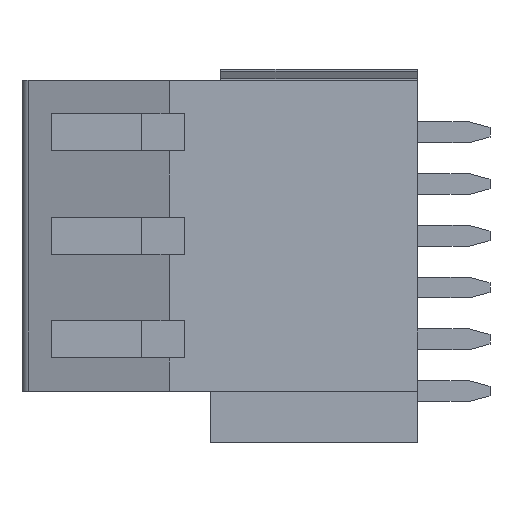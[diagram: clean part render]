
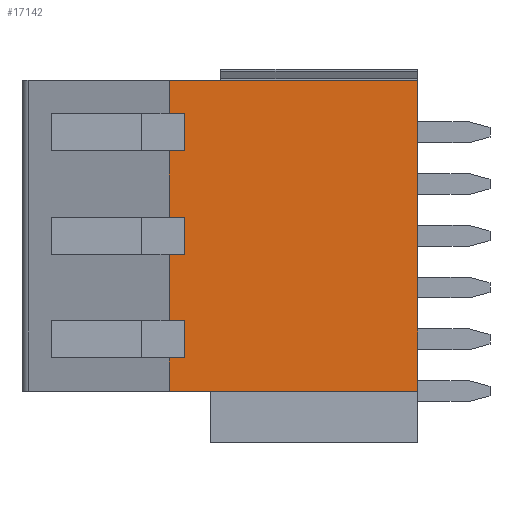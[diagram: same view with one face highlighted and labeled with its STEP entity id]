
A CAD part, left-side view. The second image highlights one B-rep face of the part: STEP entity #17142.
In plain terms, the highlighted planar face has unit normal (-1, 0, 0).
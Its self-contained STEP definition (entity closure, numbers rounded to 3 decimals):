
#9=DIRECTION('',(0.,1.,0.));
#10=VECTOR('',#9,12.);
#11=CARTESIAN_POINT('',(0.,0.,-0.55));
#12=LINE('',#11,#10);
#2987=DIRECTION('',(0.,0.,-1.));
#2988=VECTOR('',#2987,3.2);
#2989=CARTESIAN_POINT('',(0.,12.,-8.95));
#2990=LINE('',#2989,#2988);
#2995=DIRECTION('',(0.,0.,-1.));
#2996=VECTOR('',#2995,1.6);
#2997=CARTESIAN_POINT('',(0.,12.,-13.95));
#2998=LINE('',#2997,#2996);
#2999=DIRECTION('',(0.,0.,-1.));
#3000=VECTOR('',#2999,1.6);
#3001=CARTESIAN_POINT('',(0.,12.,-0.55));
#3002=LINE('',#3001,#3000);
#3007=DIRECTION('',(0.,0.,-1.));
#3008=VECTOR('',#3007,3.2);
#3009=CARTESIAN_POINT('',(0.,12.,-3.95));
#3010=LINE('',#3009,#3008);
#3015=DIRECTION('',(0.,0.,-1.));
#3016=VECTOR('',#3015,15.);
#3017=CARTESIAN_POINT('',(0.,0.,-0.55));
#3018=LINE('',#3017,#3016);
#3019=DIRECTION('',(0.,1.,0.));
#3020=VECTOR('',#3019,12.);
#3021=CARTESIAN_POINT('',(0.,0.,-15.55));
#3022=LINE('',#3021,#3020);
#3023=DIRECTION('',(0.,1.,0.));
#3024=VECTOR('',#3023,0.75);
#3025=CARTESIAN_POINT('',(0.,11.25,-12.15));
#3026=LINE('',#3025,#3024);
#3027=DIRECTION('',(0.,1.,0.));
#3028=VECTOR('',#3027,0.75);
#3029=CARTESIAN_POINT('',(0.,11.25,-7.15));
#3030=LINE('',#3029,#3028);
#3031=DIRECTION('',(0.,1.,0.));
#3032=VECTOR('',#3031,0.75);
#3033=CARTESIAN_POINT('',(0.,11.25,-2.15));
#3034=LINE('',#3033,#3032);
#3150=DIRECTION('',(0.,1.,0.));
#3151=VECTOR('',#3150,0.75);
#3152=CARTESIAN_POINT('',(0.,11.25,-13.95));
#3153=LINE('',#3152,#3151);
#3186=DIRECTION('',(0.,0.,-1.));
#3187=VECTOR('',#3186,1.8);
#3188=CARTESIAN_POINT('',(0.,11.25,-12.15));
#3189=LINE('',#3188,#3187);
#3242=DIRECTION('',(0.,1.,0.));
#3243=VECTOR('',#3242,0.75);
#3244=CARTESIAN_POINT('',(0.,11.25,-3.95));
#3245=LINE('',#3244,#3243);
#3258=DIRECTION('',(0.,0.,-1.));
#3259=VECTOR('',#3258,1.8);
#3260=CARTESIAN_POINT('',(0.,11.25,-2.15));
#3261=LINE('',#3260,#3259);
#3298=DIRECTION('',(0.,1.,0.));
#3299=VECTOR('',#3298,0.75);
#3300=CARTESIAN_POINT('',(0.,11.25,-8.95));
#3301=LINE('',#3300,#3299);
#3314=DIRECTION('',(0.,0.,-1.));
#3315=VECTOR('',#3314,1.8);
#3316=CARTESIAN_POINT('',(0.,11.25,-7.15));
#3317=LINE('',#3316,#3315);
#11015=CARTESIAN_POINT('',(0.,0.,-0.55));
#11016=VERTEX_POINT('',#11015);
#11017=CARTESIAN_POINT('',(0.,12.,-0.55));
#11018=VERTEX_POINT('',#11017);
#11079=CARTESIAN_POINT('',(0.,0.,-15.55));
#11080=VERTEX_POINT('',#11079);
#11655=CARTESIAN_POINT('',(0.,11.25,-12.15));
#11656=CARTESIAN_POINT('',(0.,11.25,-13.95));
#11657=VERTEX_POINT('',#11655);
#11658=VERTEX_POINT('',#11656);
#11660=CARTESIAN_POINT('',(0.,12.,-12.15));
#11662=VERTEX_POINT('',#11660);
#11663=CARTESIAN_POINT('',(0.,12.,-8.95));
#11664=VERTEX_POINT('',#11663);
#11667=CARTESIAN_POINT('',(0.,12.,-13.95));
#11668=VERTEX_POINT('',#11667);
#11669=CARTESIAN_POINT('',(0.,12.,-15.55));
#11670=VERTEX_POINT('',#11669);
#11673=CARTESIAN_POINT('',(0.,12.,-2.15));
#11674=VERTEX_POINT('',#11673);
#11679=CARTESIAN_POINT('',(0.,12.,-3.95));
#11680=VERTEX_POINT('',#11679);
#11681=CARTESIAN_POINT('',(0.,12.,-7.15));
#11682=VERTEX_POINT('',#11681);
#11687=CARTESIAN_POINT('',(0.,11.25,-8.95));
#11688=VERTEX_POINT('',#11687);
#11689=CARTESIAN_POINT('',(0.,11.25,-7.15));
#11690=VERTEX_POINT('',#11689);
#11691=CARTESIAN_POINT('',(0.,11.25,-3.95));
#11692=VERTEX_POINT('',#11691);
#11693=CARTESIAN_POINT('',(0.,11.25,-2.15));
#11694=VERTEX_POINT('',#11693);
#17109=CARTESIAN_POINT('',(0.,12.,-5.55));
#17110=DIRECTION('',(-1.,0.,0.));
#17111=DIRECTION('',(0.,-1.,0.));
#17112=AXIS2_PLACEMENT_3D('',#17109,#17110,#17111);
#17113=PLANE('',#17112);
#17114=ORIENTED_EDGE('',*,*,#13533,.T.);
#17116=ORIENTED_EDGE('',*,*,#17115,.T.);
#17117=ORIENTED_EDGE('',*,*,#17084,.F.);
#17119=ORIENTED_EDGE('',*,*,#17118,.F.);
#17121=ORIENTED_EDGE('',*,*,#17120,.F.);
#17123=ORIENTED_EDGE('',*,*,#17122,.T.);
#17124=ORIENTED_EDGE('',*,*,#17076,.F.);
#17126=ORIENTED_EDGE('',*,*,#17125,.F.);
#17128=ORIENTED_EDGE('',*,*,#17127,.F.);
#17130=ORIENTED_EDGE('',*,*,#17129,.T.);
#17131=ORIENTED_EDGE('',*,*,#17098,.F.);
#17133=ORIENTED_EDGE('',*,*,#17132,.F.);
#17135=ORIENTED_EDGE('',*,*,#17134,.F.);
#17137=ORIENTED_EDGE('',*,*,#17136,.T.);
#17138=ORIENTED_EDGE('',*,*,#17090,.F.);
#17139=ORIENTED_EDGE('',*,*,#13450,.F.);
#17140=EDGE_LOOP('',(#17114,#17116,#17117,#17119,#17121,#17123,#17124,#17126,
#17128,#17130,#17131,#17133,#17135,#17137,#17138,#17139));
#17141=FACE_OUTER_BOUND('',#17140,.F.);
#17142=ADVANCED_FACE('',(#17141),#17113,.T.);
#13450=EDGE_CURVE('',#11016,#11018,#12,.T.);
#13533=EDGE_CURVE('',#11016,#11080,#3018,.T.);
#17076=EDGE_CURVE('',#11664,#11662,#2990,.T.);
#17084=EDGE_CURVE('',#11668,#11670,#2998,.T.);
#17090=EDGE_CURVE('',#11018,#11674,#3002,.T.);
#17098=EDGE_CURVE('',#11680,#11682,#3010,.T.);
#17115=EDGE_CURVE('',#11080,#11670,#3022,.T.);
#17118=EDGE_CURVE('',#11658,#11668,#3153,.T.);
#17120=EDGE_CURVE('',#11657,#11658,#3189,.T.);
#17122=EDGE_CURVE('',#11657,#11662,#3026,.T.);
#17125=EDGE_CURVE('',#11688,#11664,#3301,.T.);
#17127=EDGE_CURVE('',#11690,#11688,#3317,.T.);
#17129=EDGE_CURVE('',#11690,#11682,#3030,.T.);
#17132=EDGE_CURVE('',#11692,#11680,#3245,.T.);
#17134=EDGE_CURVE('',#11694,#11692,#3261,.T.);
#17136=EDGE_CURVE('',#11694,#11674,#3034,.T.);
